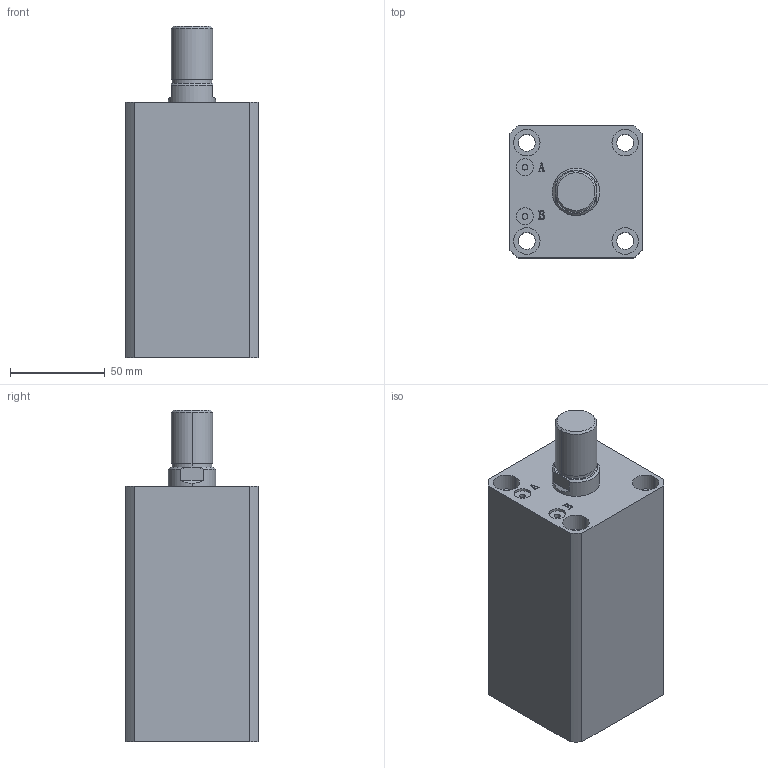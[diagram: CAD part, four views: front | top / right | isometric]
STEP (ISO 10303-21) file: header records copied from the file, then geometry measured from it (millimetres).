
FILE_DESCRIPTION (( 'STEP AP203' ), '1' );
FILE_NAME ('HTB-SDMA40-80W.STEP', '2019-10-07T11:57:08', ( '微软用户' ), ( '微软中国' ), 'SwSTEP 2.0', 'SolidWorks 2012', '' );
FILE_SCHEMA (( 'CONFIG_CONTROL_DESIGN' ));
Length unit declared in the file: millimetre
Products named in the file (3): HTB-SDMA40-80W; HTB-SDMA40-80W活塞杆; HTB-SDMA40-80掛极
Assembly tree (2 placements, depth 2):
  HTB-SDMA40-80W
    HTB-SDMA40-80掛极
    HTB-SDMA40-80W活塞杆
Bounding box: 70 x 70 x 175 mm (x, y, z)
Volume: 569953.2 mm3; surface area: 94393.9 mm2
Topology: 2 solids, 2 shells, 141 faces, 337 edges, 222 vertices
Faces by surface type: plane 67, cylinder 48, bspline 16, torus 6, cone 4
Entity records: 5180 total; most frequent: CARTESIAN_POINT 1597, ORIENTED_EDGE 674, DIRECTION 669, EDGE_CURVE 337, AXIS2_PLACEMENT_3D 242, VERTEX_POINT 222, VECTOR 185, LINE 185
